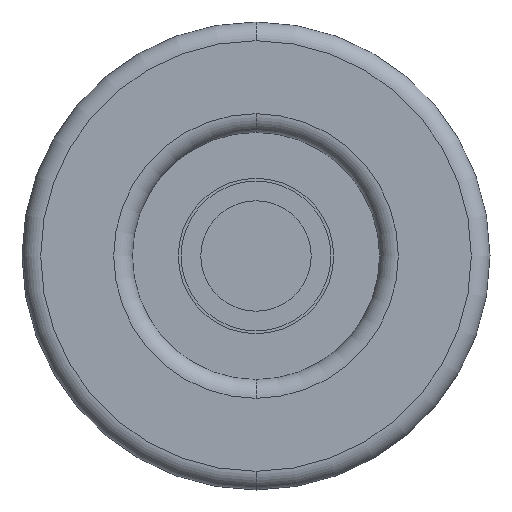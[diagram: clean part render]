
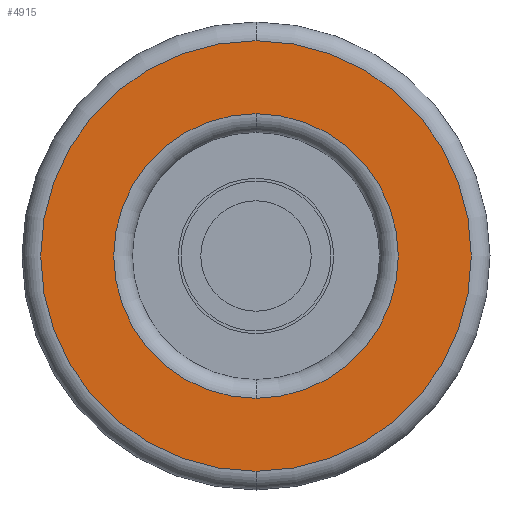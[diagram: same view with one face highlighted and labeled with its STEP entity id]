
A CAD part, front view. The second image highlights one B-rep face of the part: STEP entity #4915.
In plain terms, the highlighted planar face has unit normal (0, -1, 0).
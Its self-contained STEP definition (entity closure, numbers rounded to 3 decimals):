
#155 = DIRECTION ( 'NONE',  ( 0., -1., 0. ) ) ;
#370 = PLANE ( 'NONE',  #577 ) ;
#477 = CARTESIAN_POINT ( 'NONE',  ( 0., 0., -7.6 ) ) ;
#577 = AXIS2_PLACEMENT_3D ( 'NONE', #1390, #1974, #2519 ) ;
#581 = ORIENTED_EDGE ( 'NONE', *, *, #2185, .T. ) ;
#766 = ORIENTED_EDGE ( 'NONE', *, *, #5976, .T. ) ;
#1211 = EDGE_LOOP ( 'NONE', ( #2936, #1856 ) ) ;
#1390 = CARTESIAN_POINT ( 'NONE',  ( -6.6, 0., 0. ) ) ;
#1440 = DIRECTION ( 'NONE',  ( 0., 0., -1. ) ) ;
#1529 = CIRCLE ( 'NONE', #6307, 11.5 ) ;
#1620 = CARTESIAN_POINT ( 'NONE',  ( 0., 0., 7.6 ) ) ;
#1816 = CIRCLE ( 'NONE', #2445, 11.5 ) ;
#1856 = ORIENTED_EDGE ( 'NONE', *, *, #3579, .T. ) ;
#1974 = DIRECTION ( 'NONE',  ( 0., -1., 0. ) ) ;
#2000 = AXIS2_PLACEMENT_3D ( 'NONE', #6757, #5245, #1440 ) ;
#2014 = DIRECTION ( 'NONE',  ( 0., -1., 0. ) ) ;
#2185 = EDGE_CURVE ( 'NONE', #5711, #4396, #3134, .T. ) ;
#2215 = DIRECTION ( 'NONE',  ( 0., 0., -1. ) ) ;
#2280 = CIRCLE ( 'NONE', #2000, 7.6 ) ;
#2445 = AXIS2_PLACEMENT_3D ( 'NONE', #4724, #2014, #3177 ) ;
#2519 = DIRECTION ( 'NONE',  ( 0., 0., -1. ) ) ;
#2629 = CARTESIAN_POINT ( 'NONE',  ( 0., 0., -11.5 ) ) ;
#2640 = VERTEX_POINT ( 'NONE', #2629 ) ;
#2936 = ORIENTED_EDGE ( 'NONE', *, *, #6754, .T. ) ;
#3134 = CIRCLE ( 'NONE', #6845, 7.6 ) ;
#3177 = DIRECTION ( 'NONE',  ( 0., 0., -1. ) ) ;
#3290 = FACE_BOUND ( 'NONE', #3307, .T. ) ;
#3307 = EDGE_LOOP ( 'NONE', ( #766, #581 ) ) ;
#3378 = CARTESIAN_POINT ( 'NONE',  ( 0., 0., 0. ) ) ;
#3579 = EDGE_CURVE ( 'NONE', #5568, #2640, #1816, .T. ) ;
#4396 = VERTEX_POINT ( 'NONE', #477 ) ;
#4724 = CARTESIAN_POINT ( 'NONE',  ( 0., 0., 0. ) ) ;
#4915 = ADVANCED_FACE ( 'NONE', ( #3290, #5983 ), #370, .T. ) ;
#5169 = CARTESIAN_POINT ( 'NONE',  ( 0., 0., 11.5 ) ) ;
#5245 = DIRECTION ( 'NONE',  ( 0., 1., 0. ) ) ;
#5493 = CARTESIAN_POINT ( 'NONE',  ( 0., 0., 0. ) ) ;
#5568 = VERTEX_POINT ( 'NONE', #5169 ) ;
#5711 = VERTEX_POINT ( 'NONE', #1620 ) ;
#5966 = DIRECTION ( 'NONE',  ( 0., 1., 0. ) ) ;
#5976 = EDGE_CURVE ( 'NONE', #4396, #5711, #2280, .T. ) ;
#5983 = FACE_OUTER_BOUND ( 'NONE', #1211, .T. ) ;
#6045 = DIRECTION ( 'NONE',  ( 0., 0., -1. ) ) ;
#6307 = AXIS2_PLACEMENT_3D ( 'NONE', #3378, #155, #2215 ) ;
#6754 = EDGE_CURVE ( 'NONE', #2640, #5568, #1529, .T. ) ;
#6757 = CARTESIAN_POINT ( 'NONE',  ( 0., 0., 0. ) ) ;
#6845 = AXIS2_PLACEMENT_3D ( 'NONE', #5493, #5966, #6045 ) ;
